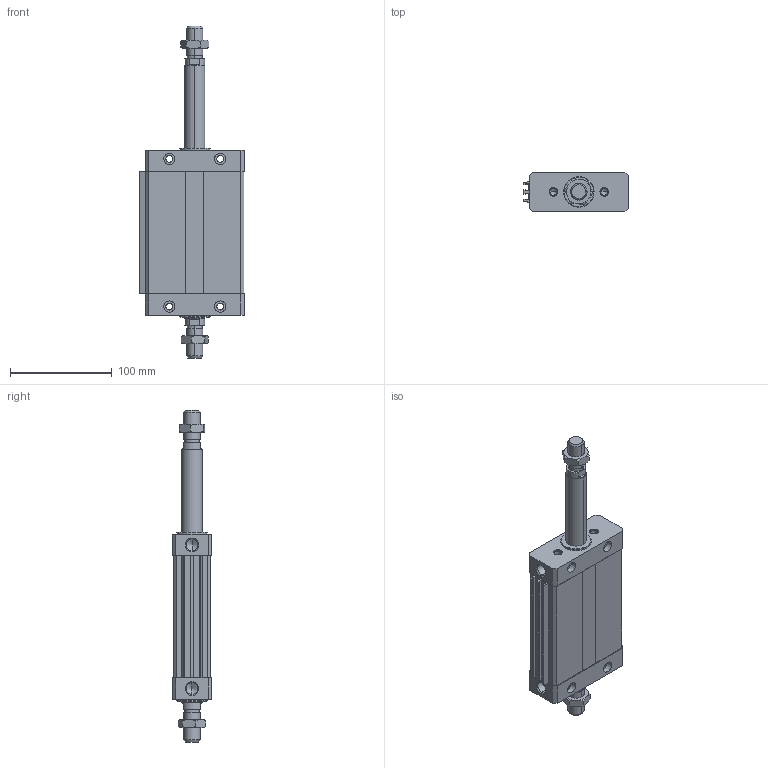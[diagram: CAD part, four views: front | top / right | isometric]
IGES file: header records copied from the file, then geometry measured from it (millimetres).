
Global section: file name: No Iges File Name specified; native system: Autodesk Inventor 2011; preprocessor: AutoDesk Inventor Iges Exporter R2011; author: airolcr1; date: 20101213.153322; units: millimetre
Bounding box: 102.5 x 38 x 326 mm (x, y, z)
Volume: 484192.5 mm3; surface area: 130691.8 mm2
Topology: 6 solids, 6 shells, 280 faces, 664 edges, 396 vertices
Faces by surface type: bspline 114, plane 98, cone 36, cylinder 18, revolution 14
